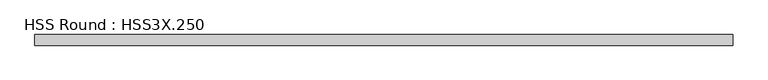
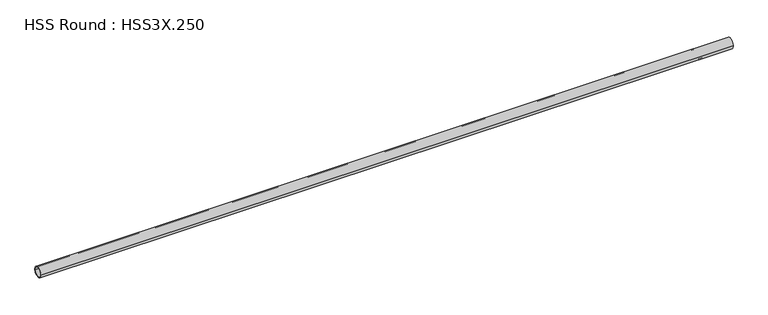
"""IFC4 building model written with IfcOpenShell, lengths in millimetres: member geometry, HSS Round : HSS3X.250."""

from ifc_helpers import new_model, si_unit, point, frame, origin, origin_2d, place, context, project, spatial, circle_curve, trimmed, segment, composite_curve, outline, extrude, source, transform, mapped, element, save


def hss_round_hss3x_250_dfc46df4(model_context):
    return source(origin(), model_context, "Body", "SweptSolid", [
        extrude(outline(composite_curve([segment(trimmed(circle_curve(origin_2d(), 38.1), [point((-38.1, 0.0))], [point((38.1, 0.0))], False, "CARTESIAN"), True, "CONTINUOUS"), segment(trimmed(circle_curve(origin_2d(), 38.1), [point((38.1, 0.0))], [point((-38.1, 0.0))], False, "CARTESIAN"), True, "CONTINUOUS")], self_intersect=False), holes=[composite_curve([segment(trimmed(circle_curve(origin_2d(), 31.75), [point((31.75, 0.0))], [point((-31.75, 0.0))], True, "CARTESIAN"), True, "CONTINUOUS"), segment(trimmed(circle_curve(origin_2d(), 31.75), [point((-31.75, 0.0))], [point((31.75, 0.0))], True, "CARTESIAN"), True, "CONTINUOUS")], self_intersect=False)]), frame((-2584.4756821, 0.0, 0.0), z_axis=(1.0, 0.0, 0.0), x_axis=(0.0, 1.0, 0.0)), (0.0, 0.0, 1.0), 5016.9413603),
    ])


if __name__ == "__main__":
    model = new_model("IFC4")
    model_context = context("Model", 3, world=origin())
    ifc_project = project(units=[si_unit("LENGTHUNIT", "METRE", prefix="MILLI")], contexts=[model_context])
    site = spatial("IfcSite", under=ifc_project)
    building = spatial("IfcBuilding", under=site)
    placement = place(None, origin())
    hss_round_hss3x_250_shape = hss_round_hss3x_250_dfc46df4(model_context)
    element("IfcMember", 1, ObjectType="HSS Round : HSS3X.250", at=placement, inside=building, context=model_context, shape_type="MappedRepresentation", body=[
        mapped(hss_round_hss3x_250_shape, transform((0.0, 0.0, 0.0), x_axis=(1.0, 0.0, 0.0), y_axis=(0.0, 1.0, 0.0), z_axis=(0.0, 0.0, 1.0))),
    ])
    save(model, "model.ifc")
